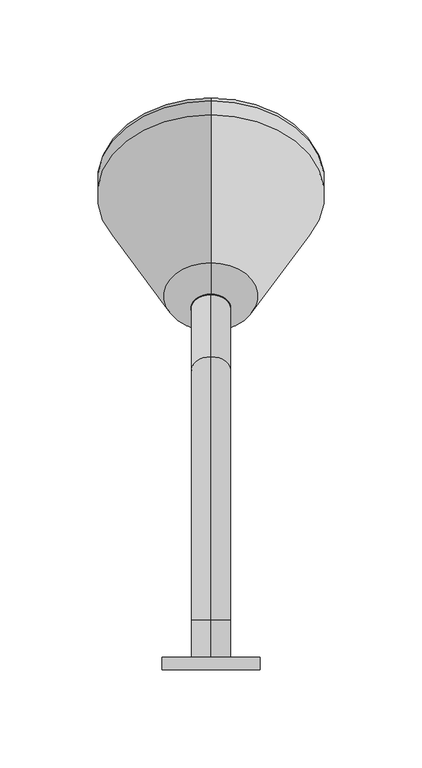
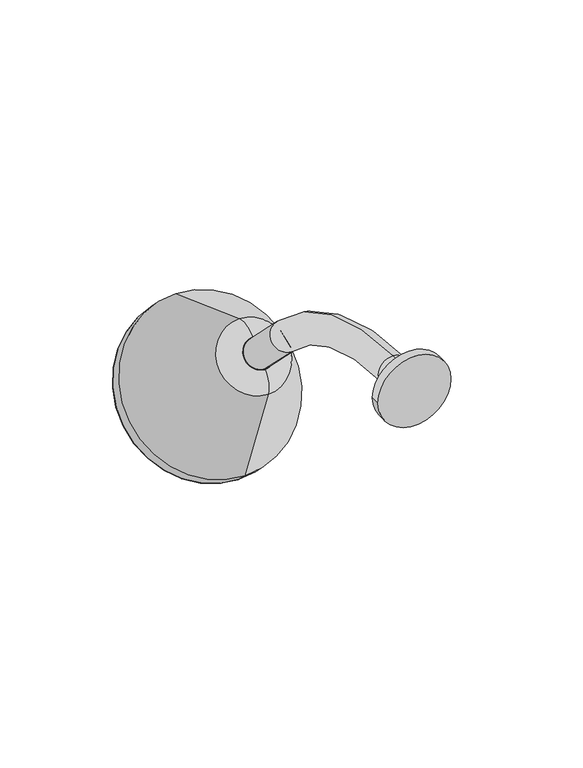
"""IFC4 building model written with IfcOpenShell, lengths in millimetres: flow terminal geometry, Regadera : Accesorios_baño SOTANO."""

import ifcopenshell
import ifcopenshell.guid

model = None  # the IFC model being written
_history = None  # IfcOwnerHistory: only IFC2X3 demands one
_inside = {}  # id of a spatial element -> (the spatial element, [elements in it])
_under = {}  # id of a project, library or spatial element -> (it, [spatial elements below it])
_declared = {}  # id of a project -> (the project, [libraries it declares])
_typed = {}  # id of a type object -> (the type object, [elements of that type])
_made_of = {}  # id of a material, layer set ... -> (it, [elements and type objects made of it])


def new_model(schema):
    """Start an empty IFC model of exactly this schema.

    Asked for "IFC4X3", IfcOpenShell would pick the latest addendum, in which some entities
    have other attributes; the version numbers below select the first issue.
    IFC2X3 requires an IfcOwnerHistory on every rooted entity: one is made here for all.
    """
    global model, _history
    if schema == "IFC4X3":
        model = ifcopenshell.file(schema_version=(4, 3, 0, 0))
    else:
        model = ifcopenshell.file(schema=schema)
    _inside.clear()
    _under.clear()
    _declared.clear()
    _typed.clear()
    _made_of.clear()
    _history = None
    if model.schema == "IFC2X3":
        org = make("IfcOrganization", Name="unknown")
        user = make(
            "IfcPersonAndOrganization",
            ThePerson=make("IfcPerson", FamilyName="unknown"),
            TheOrganization=org,
        )
        app = make(
            "IfcApplication",
            ApplicationDeveloper=org,
            Version="unknown",
            ApplicationFullName="unknown",
            ApplicationIdentifier="unknown",
        )
        _history = make(
            "IfcOwnerHistory",
            OwningUser=user,
            OwningApplication=app,
            ChangeAction="ADDED",
            CreationDate=0,
        )
    return model


def make(cls, **values):
    """One entity of the class cls with the attributes given. An attribute that is None is left unset."""
    return model.create_entity(
        cls, **{name: value for name, value in values.items() if value is not None}
    )


def rooted(cls, **values):
    """An entity with a GlobalId (a new one), such as an element, a storey or a relation."""
    return make(cls, GlobalId=ifcopenshell.guid.new(), OwnerHistory=_history, **values)


def si_unit(unit_type, name, prefix=None):
    """IfcSIUnit, for example si_unit("LENGTHUNIT", "METRE", prefix="MILLI")."""
    return make("IfcSIUnit", UnitType=unit_type, Prefix=prefix, Name=name)


def assignment(units):
    """IfcUnitAssignment: the units of a project."""
    return None if units is None else make("IfcUnitAssignment", Units=units)


def point(xyz):
    """IfcCartesianPoint."""
    return None if xyz is None else make("IfcCartesianPoint", Coordinates=xyz)


def direction(xyz):
    """IfcDirection."""
    return None if xyz is None else make("IfcDirection", DirectionRatios=xyz)


def frame(location, z_axis=None, x_axis=None):
    """IfcAxis2Placement3D, a coordinate frame: its origin and axes. An axis left out is left unset."""
    return make(
        "IfcAxis2Placement3D",
        Location=point(location),
        Axis=direction(z_axis),
        RefDirection=direction(x_axis),
    )


def frame_2d(location, x_axis=None):
    """IfcAxis2Placement2D, a coordinate frame in the plane: its origin and x axis."""
    return make(
        "IfcAxis2Placement2D", Location=point(location), RefDirection=direction(x_axis)
    )


def origin():
    """The frame at (0, 0, 0) with its axes left unset."""
    return frame((0.0, 0.0, 0.0))


def place(relative_to, where):
    """IfcLocalPlacement: puts the frame where relative to a parent placement (None: the world)."""
    return make(
        "IfcLocalPlacement", PlacementRelTo=relative_to, RelativePlacement=where
    )


def context(
    kind, dimensions, precision=None, world=None, true_north=None, identifier=None
):
    """IfcGeometricRepresentationContext, for example the 3D "Model" context."""
    return make(
        "IfcGeometricRepresentationContext",
        ContextIdentifier=identifier,
        ContextType=kind,
        CoordinateSpaceDimension=dimensions,
        Precision=precision,
        WorldCoordinateSystem=world,
        TrueNorth=true_north,
    )


def project(units=None, contexts=None):
    """IfcProject with its units and contexts."""
    return rooted(
        "IfcProject",
        Name="project",
        RepresentationContexts=contexts,
        UnitsInContext=assignment(units),
    )


def spatial(cls, under=None, at=None, **own):
    """A site, building, storey or space (cls), placed at a placement, below another one or the project."""
    s = rooted(cls, ObjectPlacement=at, **own)
    if under is not None:
        _under.setdefault(under.id(), (under, []))[1].append(s)
    return s


def polyline(points):
    """IfcPolyline through the points."""
    return make("IfcPolyline", Points=[point(p) for p in points])


def circle_curve(where, radius):
    """IfcCircle in the frame where."""
    return make("IfcCircle", Position=where, Radius=radius)


def ellipse_curve(where, semi_axis1, semi_axis2):
    """IfcEllipse in the frame where."""
    return make(
        "IfcEllipse", Position=where, SemiAxis1=semi_axis1, SemiAxis2=semi_axis2
    )


def trimmed(basis, trim1, trim2, sense, master):
    """IfcTrimmedCurve: the piece of a basis curve between two trims."""
    return make(
        "IfcTrimmedCurve",
        BasisCurve=basis,
        Trim1=trim1,
        Trim2=trim2,
        SenseAgreement=sense,
        MasterRepresentation=master,
    )


def segment(curve, same_sense, transition):
    """IfcCompositeCurveSegment."""
    return make(
        "IfcCompositeCurveSegment",
        Transition=transition,
        SameSense=same_sense,
        ParentCurve=curve,
    )


def composite_curve(segments, self_intersect=None):
    """IfcCompositeCurve: segments joined end to end."""
    return make("IfcCompositeCurve", Segments=segments, SelfIntersect=self_intersect)


def outline(outer, holes=None, kind="AREA"):
    """IfcArbitraryClosedProfileDef: a profile drawn as a closed curve; with holes, ...WithVoids."""
    if holes is None:
        return make("IfcArbitraryClosedProfileDef", ProfileType=kind, OuterCurve=outer)
    return make(
        "IfcArbitraryProfileDefWithVoids",
        ProfileType=kind,
        OuterCurve=outer,
        InnerCurves=holes,
    )


def extrude(swept, where, along, depth):
    """IfcExtrudedAreaSolid: the profile swept, set in the frame where, extruded along a direction by depth."""
    return make(
        "IfcExtrudedAreaSolid",
        SweptArea=swept,
        Position=where,
        ExtrudedDirection=direction(along),
        Depth=depth,
    )


def shape(context_of_items, identifier, shape_type, items):
    """IfcShapeRepresentation: the items that make up one representation, for example the "Body"."""
    return make(
        "IfcShapeRepresentation",
        ContextOfItems=context_of_items,
        RepresentationIdentifier=identifier,
        RepresentationType=shape_type,
        Items=items,
    )


def source(mapping_origin, context_of_items, identifier, shape_type, items):
    """IfcRepresentationMap: a shape defined once, which mapped items show again and again."""
    return make(
        "IfcRepresentationMap",
        MappingOrigin=mapping_origin,
        MappedRepresentation=shape(context_of_items, identifier, shape_type, items),
    )


def transform(
    local_origin,
    x_axis=None,
    y_axis=None,
    z_axis=None,
    scale=None,
    scale2=None,
    scale3=None,
    uniform=True,
):
    """IfcCartesianTransformationOperator3D, or its non-uniform kind. x_axis, y_axis, z_axis: its Axis1, 2, 3."""
    if uniform:
        return make(
            "IfcCartesianTransformationOperator3D",
            Axis1=direction(x_axis),
            Axis2=direction(y_axis),
            LocalOrigin=point(local_origin),
            Scale=scale,
            Axis3=direction(z_axis),
        )
    return make(
        "IfcCartesianTransformationOperator3DnonUniform",
        Axis1=direction(x_axis),
        Axis2=direction(y_axis),
        LocalOrigin=point(local_origin),
        Scale=scale,
        Axis3=direction(z_axis),
        Scale2=scale2,
        Scale3=scale3,
    )


def mapped(mapping_source, mapping_target):
    """IfcMappedItem: shows the shape of a source again, moved by a transform."""
    return make(
        "IfcMappedItem", MappingSource=mapping_source, MappingTarget=mapping_target
    )


def made_of(thing, what):
    """Note that an element or type object is made of a material, layer set ...; save() writes the relation."""
    if what is not None:
        _made_of.setdefault(what.id(), (what, []))[1].append(thing)
    return thing


def element(
    cls,
    number,
    at=None,
    inside=None,
    cuts=None,
    type_object=None,
    material=None,
    context=None,
    identifier="Body",
    shape_type=None,
    held_by="IfcProductDefinitionShape",
    body=None,
    shapes=None,
    **own,
):
    """One element of the class cls, such as IfcWall. Its Tag is "e" and its number.

    at: its placement. inside: the storey or other place that contains it. cuts: it is an
    opening in that element (IfcRelVoidsElement). A single representation is given by context,
    identifier, shape_type and body (its items); several are given by shapes. held_by: the class
    of the entity that holds the representations. save() writes the other relations.
    """
    e = rooted(cls, Tag="e%d" % number, ObjectPlacement=at, **own)
    if body is not None:
        shapes = [shape(context, identifier, shape_type, body)]
    if shapes is not None:
        e.Representation = make(held_by, Representations=shapes)
    if inside is not None:
        _inside.setdefault(inside.id(), (inside, []))[1].append(e)
    if cuts is not None:
        rooted(
            "IfcRelVoidsElement", RelatingBuildingElement=cuts, RelatedOpeningElement=e
        )
    if type_object is not None:
        _typed.setdefault(type_object.id(), (type_object, []))[1].append(e)
    return made_of(e, material)


def aggregate(whole, parts):
    """IfcRelAggregates: a whole, such as a stair, and the parts it consists of."""
    return rooted("IfcRelAggregates", RelatingObject=whole, RelatedObjects=parts)


def save(model, path):
    """Write the relations noted so far, then the file.

    IfcRelAggregates (storeys below a building ...), IfcRelContainedInSpatialStructure (elements
    in a storey), IfcRelDefinesByType, IfcRelAssociatesMaterial and IfcRelDeclares: one each for
    every whole, place, type object, material and project.
    """
    for whole, parts in _under.values():
        aggregate(whole, parts)
    for where, things in _inside.values():
        rooted(
            "IfcRelContainedInSpatialStructure",
            RelatedElements=things,
            RelatingStructure=where,
        )
    for kind, things in _typed.values():
        rooted("IfcRelDefinesByType", RelatedObjects=things, RelatingType=kind)
    for what, things in _made_of.values():
        rooted("IfcRelAssociatesMaterial", RelatedObjects=things, RelatingMaterial=what)
    for by, libraries in _declared.values():
        rooted("IfcRelDeclares", RelatingContext=by, RelatedDefinitions=libraries)
    model.write(path)


def plane_surface(at):
    """IfcPlane: the flat surface through the origin of the frame at, square to its z axis."""
    return make("IfcPlane", Position=at)


def cylinder_surface(at, radius):
    """IfcCylindricalSurface: all points at the distance radius from the z axis of the frame at."""
    return make("IfcCylindricalSurface", Position=at, Radius=radius)


def revolved_surface(curve, axis_point, axis_direction):
    """IfcSurfaceOfRevolution: the curve turned about the line through axis_point along axis_direction."""
    return make(
        "IfcSurfaceOfRevolution",
        SweptCurve=make("IfcArbitraryOpenProfileDef", ProfileType="CURVE", Curve=curve),
        AxisPosition=make("IfcAxis1Placement", Location=point(axis_point), Axis=direction(axis_direction)),
    )


def advanced_brep(points, edges, surfaces, faces):
    """IfcAdvancedBrep: a solid bounded by faces that lie on surfaces and meet in shared edges.

    An edge is (start, end): straight between two places in points (the first is 0);
    or (start, end, curve); or (start, end, curve, False) where it runs against its curve.
    A face is (place in surfaces, loops), or (place, loops, False) where it looks against
    its surface's normal. A loop lists edges by number (the first is 1), with a minus sign
    where the edge is run from its end to its start. The first loop is the outer one.
    """
    corners = [point(p) for p in points]
    vertices = [make("IfcVertexPoint", VertexGeometry=c) for c in corners]
    made = []
    for start, end, *more in edges:
        made.append(
            make(
                "IfcEdgeCurve",
                EdgeStart=vertices[start],
                EdgeEnd=vertices[end],
                EdgeGeometry=more[0] if more else make("IfcPolyline", Points=[corners[start], corners[end]]),
                SameSense=more[1] if len(more) > 1 else True,
            )
        )
    hull = []
    for where, loops, *sense in faces:
        bounds = []
        for j, loop in enumerate(loops):
            ring = [make("IfcOrientedEdge", EdgeElement=made[abs(k) - 1], Orientation=k > 0) for k in loop]
            bounds.append(
                make(
                    "IfcFaceOuterBound" if j == 0 else "IfcFaceBound",
                    Bound=make("IfcEdgeLoop", EdgeList=ring),
                    Orientation=True,
                )
            )
        hull.append(make("IfcAdvancedFace", Bounds=bounds, FaceSurface=surfaces[where], SameSense=sense[0] if sense else True))
    return make("IfcAdvancedBrep", Outer=make("IfcClosedShell", CfsFaces=hull))


def flow_terminal_1c9496e2(model_context):
    return source(origin(), model_context, "Body", "SolidModel", [
        extrude(outline(composite_curve([segment(trimmed(circle_curve(frame_2d((1900.0, 125.0)), 25.0), [point((1900.0, 100.0))], [point((1900.0, 150.0))], False, "CARTESIAN"), True, "CONTINUOUS"), segment(trimmed(circle_curve(frame_2d((1900.0, 125.0)), 25.0), [point((1900.0, 150.0))], [point((1900.0, 100.0))], False, "CARTESIAN"), True, "CONTINUOUS")], self_intersect=False)), frame((0.0, 75.0, 0.0), z_axis=(0.0, 1.0, 0.0), x_axis=(0.0, 0.0, 1.0)), (0.0, 0.0, 1.0), 6.4821489),
        advanced_brep(
        [(125.0, 282.6624735, 1826.3331882), (125.0, 248.6668118, 1792.3375265), (125.0, 252.1555994, 1808.0744304), (125.0, 266.9255696, 1822.8444006), (125.0, 358.255056, 1798.8197382), (125.0, 276.1802618, 1716.744944), (125.0, 365.3261238, 1791.7486704), (125.0, 283.2513296, 1709.6738762), (125.0, 365.3261238, 1784.6776026), (125.0, 290.3223974, 1709.6738762), (125.0, 363.6229509, 1782.9744296), (125.0, 292.0255704, 1711.3770491), (125.0, 362.2087373, 1784.3886432), (125.0, 290.6113568, 1712.7912627), (125.0, 326.4100471, 1748.5899529), (125.0, 259.5405845, 1815.4594155)],
        [
            (0, 1, circle_curve(frame((125.0, 265.6646427, 1809.3353573), z_axis=(0.0, -0.7071067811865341, 0.707106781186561), x_axis=(0.0, -0.707106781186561, -0.7071067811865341)), 24.0385629)),
            (1, 2, circle_curve(frame((125.0, 262.7622012, 1797.4678286), z_axis=(-1.0000000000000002, 0.0, 0.0), x_axis=(0.0, 1.0000000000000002, 0.0)), 15.0)),
            (2, 3, circle_curve(frame((125.0, 259.5405845, 1815.4594155), z_axis=(0.0, 0.7071067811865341, -0.707106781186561), x_axis=(0.0, -0.707106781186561, -0.7071067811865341)), 10.4439461)),
            (3, 0, circle_curve(frame((125.0, 277.5321714, 1812.2377988), z_axis=(-1.0000000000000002, 0.0, 0.0), x_axis=(0.0, 0.0, -1.0000000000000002)), 15.0)),
            (1, 0, circle_curve(frame((125.0, 265.6646427, 1809.3353573), z_axis=(0.0, -0.7071067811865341, 0.707106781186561), x_axis=(0.0, -0.707106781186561, -0.7071067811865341)), 24.0385629)),
            (3, 2, circle_curve(frame((125.0, 259.5405845, 1815.4594155), z_axis=(0.0, 0.7071067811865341, -0.707106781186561), x_axis=(0.0, -0.707106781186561, -0.7071067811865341)), 10.4439461)),
            (4, 5, circle_curve(frame((125.0, 317.2176589, 1757.7823411), z_axis=(0.0, -0.7071067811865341, 0.707106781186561), x_axis=(0.0, -0.707106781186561, -0.7071067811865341)), 58.0356436)),
            (5, 1),
            (0, 4),
            (5, 4, circle_curve(frame((125.0, 317.2176589, 1757.7823411), z_axis=(0.0, -0.7071067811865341, 0.707106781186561), x_axis=(0.0, -0.707106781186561, -0.7071067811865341)), 58.0356436)),
            (6, 7, circle_curve(frame((125.0, 324.2887267, 1750.7112733), z_axis=(0.0, -0.7071067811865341, 0.707106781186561), x_axis=(0.0, -0.707106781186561, -0.7071067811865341)), 58.0356436)),
            (7, 5),
            (4, 6),
            (7, 6, circle_curve(frame((125.0, 324.2887267, 1750.7112733), z_axis=(0.0, -0.7071067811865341, 0.707106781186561), x_axis=(0.0, -0.707106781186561, -0.7071067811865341)), 58.0356436)),
            (8, 9, circle_curve(frame((125.0, 327.8242606, 1747.1757394), z_axis=(0.0, -0.7071067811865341, 0.707106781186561), x_axis=(0.0, -0.707106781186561, -0.7071067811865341)), 53.0356436)),
            (9, 7, circle_curve(frame((125.0, 286.7868635, 1713.2094101), z_axis=(-1.0000000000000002, 0.0, 0.0), x_axis=(0.0, 1.0000000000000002, 0.0)), 5.0)),
            (6, 8, circle_curve(frame((125.0, 361.7905899, 1788.2131365), z_axis=(-1.0000000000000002, 0.0, 0.0), x_axis=(0.0, 0.0, -1.0000000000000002)), 5.0)),
            (9, 8, circle_curve(frame((125.0, 327.8242606, 1747.1757394), z_axis=(0.0, -0.7071067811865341, 0.707106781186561), x_axis=(0.0, -0.707106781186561, -0.7071067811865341)), 53.0356436)),
            (10, 11, circle_curve(frame((125.0, 327.8242606, 1747.1757394), z_axis=(0.0, -0.7071067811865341, 0.707106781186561), x_axis=(0.0, -0.707106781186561, -0.7071067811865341)), 50.6269933)),
            (11, 9),
            (8, 10),
            (11, 10, circle_curve(frame((125.0, 327.8242606, 1747.1757394), z_axis=(0.0, -0.7071067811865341, 0.707106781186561), x_axis=(0.0, -0.707106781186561, -0.7071067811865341)), 50.6269933)),
            (12, 13, circle_curve(frame((125.0, 326.4100471, 1748.5899529), z_axis=(0.0, -0.7071067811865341, 0.707106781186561), x_axis=(0.0, -0.707106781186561, -0.7071067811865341)), 50.6269933)),
            (13, 11),
            (10, 12),
            (13, 12, circle_curve(frame((125.0, 326.4100471, 1748.5899529), z_axis=(0.0, -0.7071067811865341, 0.707106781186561), x_axis=(0.0, -0.707106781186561, -0.7071067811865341)), 50.6269933)),
            (14, 13),
            (12, 14),
            (2, 15),
            (15, 3),
        ],
        [
            revolved_surface(trimmed(ellipse_curve(frame((125.0, 262.7622012, 1797.4678286), z_axis=(1.0000000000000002, 0.0, 0.0), x_axis=(0.0, 1.0000000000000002, 0.0)), 15.0, 15.0), [point((125.0, 252.1555994, 1808.0744304))], [point((125.0, 248.6668118, 1792.3375265))], True, "CARTESIAN"), (125.0, 259.5405845, 1815.4594155), (0.0, 0.7071067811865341, -0.707106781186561)),
            revolved_surface(polyline([(125.0, 248.6668118, 1792.3375265), (125.0, 276.1802618, 1716.744944)]), (125.0, 259.5405845, 1815.4594155), (0.0, 0.7071067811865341, -0.707106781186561)),
            cylinder_surface(frame((125.0, 259.5405845, 1815.4594155), z_axis=(0.0, 0.7071067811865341, -0.707106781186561), x_axis=(0.0, -0.707106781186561, -0.7071067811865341)), 58.0356436),
            revolved_surface(trimmed(ellipse_curve(frame((125.0, 286.7868635, 1713.2094101), z_axis=(1.0000000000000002, 0.0, 0.0), x_axis=(0.0, 1.0000000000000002, 0.0)), 5.0, 5.0), [point((125.0, 283.2513296, 1709.6738762))], [point((125.0, 290.3223974, 1709.6738762))], True, "CARTESIAN"), (125.0, 259.5405845, 1815.4594155), (0.0, 0.7071067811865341, -0.707106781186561)),
            plane_surface(frame((125.0, 327.8242606, 1747.1757394), z_axis=(0.0, 0.7071067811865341, -0.707106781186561), x_axis=(0.0, -0.707106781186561, -0.7071067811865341))),
            revolved_surface(polyline([(125.0, 292.0255703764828, 1711.3770490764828), (125.0, 290.6113567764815, 1712.7912626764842)]), (125.0, 259.5405845, 1815.4594155), (0.0, 0.7071067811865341, -0.707106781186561)),
            plane_surface(frame((125.0, 326.4100471, 1748.5899529), z_axis=(0.0, 0.7071067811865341, -0.707106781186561), x_axis=(0.0, -0.707106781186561, -0.7071067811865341))),
            plane_surface(frame((125.0, 259.5405845, 1815.4594155), z_axis=(0.0, -0.7071067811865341, 0.707106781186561), x_axis=(0.0, -0.707106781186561, -0.7071067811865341))),
        ],
        [
            (0, [[1, 2, 3, 4]]),
            (0, [[5, -4, 6, -2]]),
            (1, [[7, 8, -1, 9]]),
            (1, [[10, -9, -5, -8]]),
            (2, [[11, 12, -7, 13]]),
            (2, [[14, -13, -10, -12]]),
            (3, [[15, 16, -11, 17]]),
            (3, [[18, -17, -14, -16]]),
            (4, [[19, 20, -15, 21]]),
            (4, [[22, -21, -18, -20]]),
            (5, [[23, 24, -19, 25]]),
            (5, [[26, -25, -22, -24]]),
            (6, [[27, -23, 28]]),
            (6, [[-28, -26, -27]]),
            (7, [[-3, 29, 30]]),
            (7, [[-6, -30, -29]]),
        ],
    ),
        advanced_brep(
        [(125.0, 81.4821489, 1890.0), (125.0, 81.4821489, 1910.0), (125.0, 100.4415588, 1890.0), (125.0, 100.4415588, 1910.0), (125.0, 234.7918472, 1854.3502884), (125.0, 220.6497116, 1840.2081528), (125.0, 252.4695167, 1808.3883476), (125.0, 266.6116524, 1822.5304833)],
        [
            (0, 1, circle_curve(frame((125.0, 81.4821489, 1900.0), z_axis=(0.0, -1.0, 0.0), x_axis=(0.0, 0.0, 1.0)), 10.0)),
            (1, 0, circle_curve(frame((125.0, 81.4821489, 1900.0), z_axis=(0.0, -1.0, 0.0), x_axis=(0.0, 0.0, 1.0)), 10.0)),
            (0, 2),
            (2, 3, circle_curve(frame((125.0, 100.4415588, 1900.0), z_axis=(0.0, -1.0, 0.0), x_axis=(0.0, 0.0, 1.0)), 10.0)),
            (3, 1),
            (3, 2, circle_curve(frame((125.0, 100.4415588, 1900.0), z_axis=(0.0, -1.0, 0.0), x_axis=(0.0, 0.0, 1.0)), 10.0)),
            (4, 3, circle_curve(frame((125.0, 100.4415588, 1720.0), z_axis=(1.0, 0.0, 0.0), x_axis=(0.0, 0.0, 1.0)), 190.0)),
            (2, 5, circle_curve(frame((125.0, 100.4415588, 1720.0), z_axis=(-1.0, 0.0, 0.0), x_axis=(0.0, 0.0, 1.0)), 170.0)),
            (5, 4, circle_curve(frame((125.0, 227.7207794, 1847.2792206), z_axis=(0.0, -0.7071067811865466, 0.7071067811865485), x_axis=(0.0, 0.7071067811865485, 0.7071067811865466)), 10.0)),
            (4, 5, circle_curve(frame((125.0, 227.7207794, 1847.2792206), z_axis=(0.0, -0.707106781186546, 0.707106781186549), x_axis=(0.0, 0.707106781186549, 0.707106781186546)), 10.0)),
            (6, 7, circle_curve(frame((125.0, 259.5405845, 1815.4594155), z_axis=(0.0, 0.7071067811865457, -0.7071067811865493), x_axis=(0.0, 0.7071067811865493, 0.7071067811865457)), 10.0)),
            (7, 6, circle_curve(frame((125.0, 259.5405845, 1815.4594155), z_axis=(0.0, 0.7071067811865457, -0.7071067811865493), x_axis=(0.0, 0.7071067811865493, 0.7071067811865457)), 10.0)),
            (5, 6),
            (7, 4),
        ],
        [
            plane_surface(frame((125.0, 81.4821489, 1900.0), z_axis=(0.0, -1.0, 0.0), x_axis=(1.0, 0.0, 0.0))),
            cylinder_surface(frame((125.0, 81.4821489, 1900.0), z_axis=(0.0, -1.0, 0.0), x_axis=(0.0, 0.0, 1.0)), 10.0),
            revolved_surface(trimmed(ellipse_curve(frame((125.0, 100.4415588, 1900.0), z_axis=(0.0, -1.0, 0.0), x_axis=(0.0, 0.0, 1.0)), 10.0, 10.0), [point((125.0, 100.4415588, 1890.0))], [point((125.0, 100.4415588, 1910.0))], True, "CARTESIAN"), (125.0, 100.4415588, 1720.0), (-1.0, 0.0, 0.0)),
            revolved_surface(trimmed(ellipse_curve(frame((125.0, 100.4415588, 1900.0), z_axis=(0.0, -1.0, 0.0), x_axis=(0.0, 0.0, 1.0)), 10.0, 10.0), [point((125.0, 100.4415588, 1910.0))], [point((125.0, 100.4415588, 1890.0))], True, "CARTESIAN"), (125.0, 100.4415588, 1720.0), (-1.0, 0.0, 0.0)),
            plane_surface(frame((125.0, 259.5405845, 1815.4594155), z_axis=(0.0, 0.7071067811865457, -0.7071067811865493), x_axis=(1.0, 0.0, 0.0))),
            cylinder_surface(frame((125.0, 227.7207794, 1847.2792206), z_axis=(0.0, -0.7071067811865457, 0.7071067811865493), x_axis=(0.0, 0.7071067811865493, 0.7071067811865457)), 10.0),
        ],
        [
            (0, [[1, 2]]),
            (1, [[-1, 3, 4, 5]]),
            (1, [[-2, -5, 6, -3]]),
            (2, [[7, -4, 8, 9]]),
            (3, [[-8, -6, -7, 10]]),
            (4, [[11, 12]]),
            (5, [[-9, 13, -12, 14]]),
            (5, [[-10, -14, -11, -13]]),
        ],
    ),
    ])


if __name__ == "__main__":
    model = new_model("IFC4")
    model_context = context("Model", 3, world=origin())
    ifc_project = project(units=[si_unit("LENGTHUNIT", "METRE", prefix="MILLI")], contexts=[model_context])
    site = spatial("IfcSite", under=ifc_project)
    building = spatial("IfcBuilding", under=site)
    placement = place(None, origin())
    flow_terminal_shape = flow_terminal_1c9496e2(model_context)
    element("IfcFlowTerminal", 1, ObjectType="Regadera : Accesorios_baño SOTANO", at=placement, inside=building, context=model_context, shape_type="MappedRepresentation", body=[
        mapped(flow_terminal_shape, transform((0.0, 0.0, 0.0), x_axis=(1.0, 0.0, 0.0), y_axis=(0.0, 1.0, 0.0), z_axis=(0.0, 0.0, 1.0))),
    ])
    save(model, "model.ifc")
